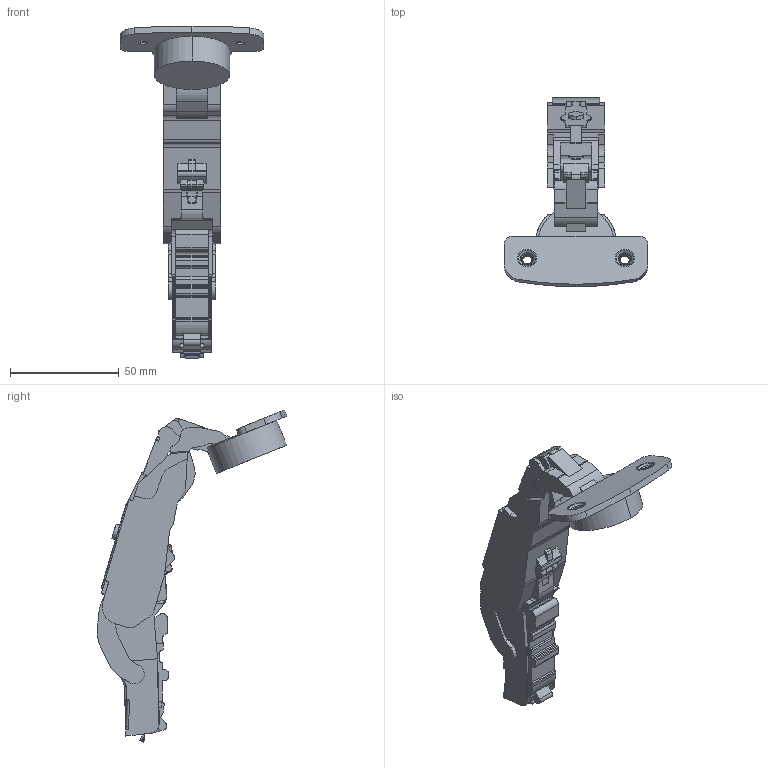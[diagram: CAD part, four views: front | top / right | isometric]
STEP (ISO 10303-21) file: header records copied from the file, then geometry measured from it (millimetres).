
FILE_DESCRIPTION (( 'STEP AP203' ), '1' );
FILE_NAME ('C81A805FAB DTC 3D OPEN.STEP', '2024-07-30T01:29:06', ( '微软用户' ), ( '微软中国' ), 'SwSTEP 2.0', 'SolidWorks 2021', '' );
FILE_SCHEMA (( 'CONFIG_CONTROL_DESIGN' ));
Length unit declared in the file: millimetre
Products named in the file (1): C81A805FAB DTC 3D OPEN
Bounding box: 66.2 x 87.36 x 152.94 mm (x, y, z)
Volume: 93186.7 mm3; surface area: 22086.6 mm2
Topology: 1 solids, 10 shells, 878 faces, 2392 edges, 1519 vertices
Faces by surface type: plane 346, cylinder 334, torus 124, bspline 68, cone 4, sphere 2
Entity records: 30675 total; most frequent: CARTESIAN_POINT 8621, ORIENTED_EDGE 4760, DIRECTION 4558, EDGE_CURVE 2380, AXIS2_PLACEMENT_3D 1647, VERTEX_POINT 1519, VECTOR 1264, LINE 1264
